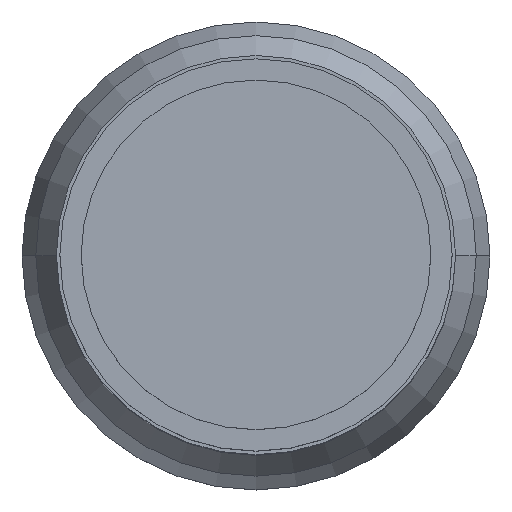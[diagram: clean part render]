
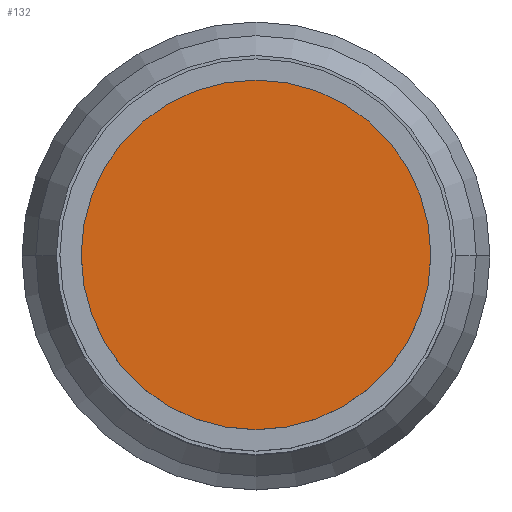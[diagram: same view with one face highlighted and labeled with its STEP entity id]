
A CAD part, top view. The second image highlights one B-rep face of the part: STEP entity #132.
In plain terms, the highlighted planar face has unit normal (0, 0, 1).
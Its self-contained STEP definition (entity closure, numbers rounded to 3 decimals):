
#48 = AXIS2_PLACEMENT_3D ( 'NONE', #1090, #478, #646 ) ;
#87 = EDGE_CURVE ( 'NONE', #969, #520, #643, .T. ) ;
#132 = ADVANCED_FACE ( 'NONE', ( #355 ), #1102, .T. ) ;
#140 = EDGE_LOOP ( 'NONE', ( #446, #384 ) ) ;
#355 = FACE_OUTER_BOUND ( 'NONE', #140, .T. ) ;
#359 = AXIS2_PLACEMENT_3D ( 'NONE', #534, #740, #748 ) ;
#375 = CARTESIAN_POINT ( 'NONE',  ( 0., 0., 4. ) ) ;
#384 = ORIENTED_EDGE ( 'NONE', *, *, #87, .F. ) ;
#446 = ORIENTED_EDGE ( 'NONE', *, *, #639, .F. ) ;
#478 = DIRECTION ( 'NONE',  ( 0., 0., -1. ) ) ;
#520 = VERTEX_POINT ( 'NONE', #554 ) ;
#534 = CARTESIAN_POINT ( 'NONE',  ( 0., 12.7, 4. ) ) ;
#554 = CARTESIAN_POINT ( 'NONE',  ( -12.7, 0., 4. ) ) ;
#639 = EDGE_CURVE ( 'NONE', #520, #969, #674, .T. ) ;
#643 = CIRCLE ( 'NONE', #48, 12.7 ) ;
#646 = DIRECTION ( 'NONE',  ( -1., 0., 0. ) ) ;
#674 = CIRCLE ( 'NONE', #839, 12.7 ) ;
#740 = DIRECTION ( 'NONE',  ( 0., 0., 1. ) ) ;
#748 = DIRECTION ( 'NONE',  ( 1., 0., 0. ) ) ;
#796 = DIRECTION ( 'NONE',  ( -1., 0., 0. ) ) ;
#839 = AXIS2_PLACEMENT_3D ( 'NONE', #375, #872, #796 ) ;
#872 = DIRECTION ( 'NONE',  ( 0., 0., -1. ) ) ;
#969 = VERTEX_POINT ( 'NONE', #1070 ) ;
#1070 = CARTESIAN_POINT ( 'NONE',  ( 12.7, 0., 4. ) ) ;
#1090 = CARTESIAN_POINT ( 'NONE',  ( 0., 0., 4. ) ) ;
#1102 = PLANE ( 'NONE',  #359 ) ;
